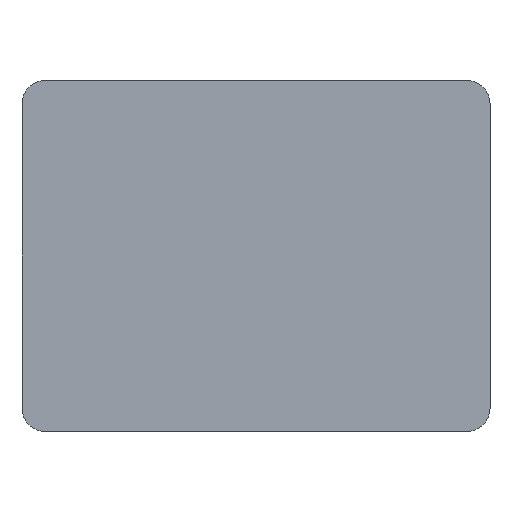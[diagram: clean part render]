
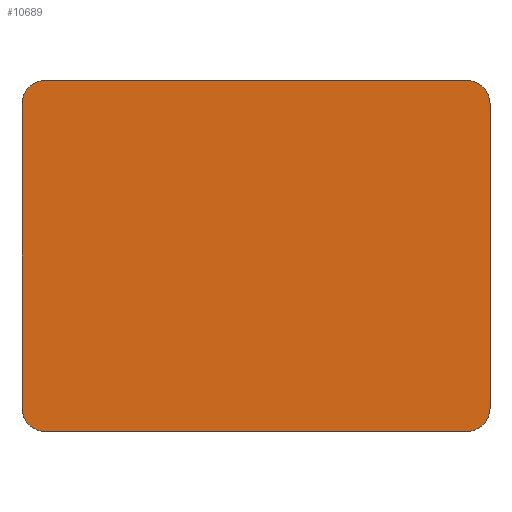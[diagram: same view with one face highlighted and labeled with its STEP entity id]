
A CAD part, left-side view. The second image highlights one B-rep face of the part: STEP entity #10689.
In plain terms, the highlighted planar face has unit normal (-1, 0, 0).
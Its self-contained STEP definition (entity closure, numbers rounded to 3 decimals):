
#1384=PLANE('',#10987);
#1941=FACE_OUTER_BOUND('',#2565,.T.);
#2565=EDGE_LOOP('',(#9890,#9891,#9892,#9893,#9894,#9895,#9896,#9897));
#3342=LINE('',#21626,#4119);
#3358=LINE('',#21751,#4135);
#3361=LINE('',#21756,#4138);
#3362=LINE('',#21760,#4139);
#4119=VECTOR('',#12149,10.);
#4135=VECTOR('',#12249,10.);
#4138=VECTOR('',#12254,10.);
#4139=VECTOR('',#12257,10.);
#4196=CIRCLE('',#10961,5.);
#4207=CIRCLE('',#10977,5.);
#4213=CIRCLE('',#10988,5.);
#4214=CIRCLE('',#10989,5.);
#5233=VERTEX_POINT('',#21620);
#5235=VERTEX_POINT('',#21624);
#5240=VERTEX_POINT('',#21658);
#5241=VERTEX_POINT('',#21660);
#5255=VERTEX_POINT('',#21718);
#5262=VERTEX_POINT('',#21750);
#5264=VERTEX_POINT('',#21757);
#5265=VERTEX_POINT('',#21759);
#6782=EDGE_CURVE('',#5235,#5233,#3342,.T.);
#6789=EDGE_CURVE('',#5240,#5241,#4196,.T.);
#6810=EDGE_CURVE('',#5233,#5255,#4207,.T.);
#6822=EDGE_CURVE('',#5241,#5262,#3358,.T.);
#6825=EDGE_CURVE('',#5255,#5240,#3361,.T.);
#6826=EDGE_CURVE('',#5264,#5235,#4213,.T.);
#6827=EDGE_CURVE('',#5265,#5264,#3362,.T.);
#6828=EDGE_CURVE('',#5262,#5265,#4214,.T.);
#9890=ORIENTED_EDGE('',*,*,#6789,.F.);
#9891=ORIENTED_EDGE('',*,*,#6825,.F.);
#9892=ORIENTED_EDGE('',*,*,#6810,.F.);
#9893=ORIENTED_EDGE('',*,*,#6782,.F.);
#9894=ORIENTED_EDGE('',*,*,#6826,.F.);
#9895=ORIENTED_EDGE('',*,*,#6827,.F.);
#9896=ORIENTED_EDGE('',*,*,#6828,.F.);
#9897=ORIENTED_EDGE('',*,*,#6822,.F.);
#10689=ADVANCED_FACE('',(#1941),#1384,.F.);
#10961=AXIS2_PLACEMENT_3D('',#21661,#12184,#12185);
#10977=AXIS2_PLACEMENT_3D('',#21719,#12224,#12225);
#10987=AXIS2_PLACEMENT_3D('',#21755,#12252,#12253);
#10988=AXIS2_PLACEMENT_3D('',#21758,#12255,#12256);
#10989=AXIS2_PLACEMENT_3D('',#21761,#12258,#12259);
#12149=DIRECTION('',(0.,0.,-1.));
#12184=DIRECTION('center_axis',(1.,0.,0.));
#12185=DIRECTION('ref_axis',(0.,0.707,-0.707));
#12224=DIRECTION('center_axis',(1.,0.,0.));
#12225=DIRECTION('ref_axis',(0.,-0.707,-0.707));
#12249=DIRECTION('',(0.,0.,1.));
#12252=DIRECTION('center_axis',(1.,0.,0.));
#12253=DIRECTION('ref_axis',(0.,1.,0.));
#12254=DIRECTION('',(0.,1.,0.));
#12255=DIRECTION('center_axis',(1.,0.,0.));
#12256=DIRECTION('ref_axis',(0.,-0.707,0.707));
#12257=DIRECTION('',(0.,-1.,0.));
#12258=DIRECTION('center_axis',(1.,0.,0.));
#12259=DIRECTION('ref_axis',(0.,0.707,0.707));
#21620=CARTESIAN_POINT('',(0.,0.,5.));
#21624=CARTESIAN_POINT('',(0.,0.,70.));
#21626=CARTESIAN_POINT('',(0.,0.,75.));
#21658=CARTESIAN_POINT('',(0.,95.,0.));
#21660=CARTESIAN_POINT('',(0.,100.,5.));
#21661=CARTESIAN_POINT('Origin',(0.,95.,5.));
#21718=CARTESIAN_POINT('',(0.,5.,0.));
#21719=CARTESIAN_POINT('Origin',(0.,5.,5.));
#21750=CARTESIAN_POINT('',(0.,100.,70.));
#21751=CARTESIAN_POINT('',(0.,100.,0.));
#21755=CARTESIAN_POINT('Origin',(0.,50.,37.5));
#21756=CARTESIAN_POINT('',(0.,0.,0.));
#21757=CARTESIAN_POINT('',(0.,5.,75.));
#21758=CARTESIAN_POINT('Origin',(0.,5.,70.));
#21759=CARTESIAN_POINT('',(0.,95.,75.));
#21760=CARTESIAN_POINT('',(0.,100.,75.));
#21761=CARTESIAN_POINT('Origin',(0.,95.,70.));
